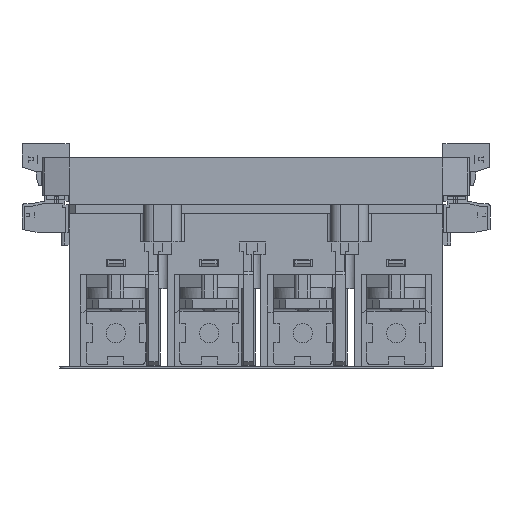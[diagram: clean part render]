
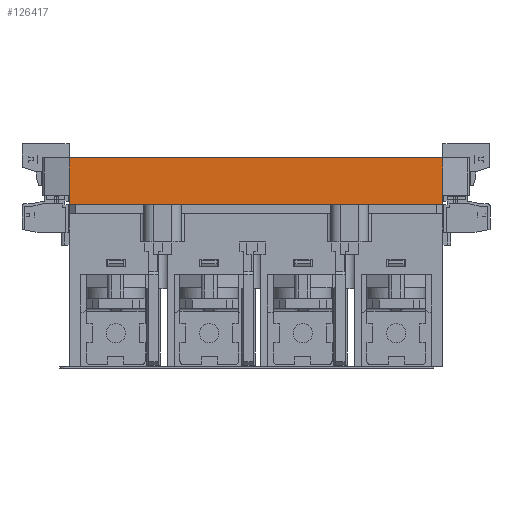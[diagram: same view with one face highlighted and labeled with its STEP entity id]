
A CAD part, front view. The second image highlights one B-rep face of the part: STEP entity #126417.
In plain terms, the highlighted planar face has unit normal (0, -1, 0).
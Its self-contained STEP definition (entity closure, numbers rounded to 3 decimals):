
#14937 = ORIENTED_EDGE ( 'NONE', *, *, #90395, .F. ) ;
#18732 = PLANE ( 'NONE',  #80993 ) ;
#26065 = CARTESIAN_POINT ( 'NONE',  ( -65.364, -76.612, -14.857 ) ) ;
#30867 = EDGE_LOOP ( 'NONE', ( #14937, #95910, #60610, #68229 ) ) ;
#36637 = CARTESIAN_POINT ( 'NONE',  ( -68.97, -76.612, -29.857 ) ) ;
#37434 = CARTESIAN_POINT ( 'NONE',  ( 54.636, -76.612, -29.857 ) ) ;
#38332 = LINE ( 'NONE', #80378, #59469 ) ;
#40467 = FACE_OUTER_BOUND ( 'NONE', #30867, .T. ) ;
#46041 = DIRECTION ( 'NONE',  ( 1., 0., 0. ) ) ;
#48784 = LINE ( 'NONE', #65160, #64825 ) ;
#53821 = DIRECTION ( 'NONE',  ( 0., 0., -1. ) ) ;
#55210 = LINE ( 'NONE', #36637, #69537 ) ;
#59469 = VECTOR ( 'NONE', #98935, 1000. ) ;
#60610 = ORIENTED_EDGE ( 'NONE', *, *, #98317, .T. ) ;
#62954 = VERTEX_POINT ( 'NONE', #26065 ) ;
#64825 = VECTOR ( 'NONE', #76766, 1000. ) ;
#65160 = CARTESIAN_POINT ( 'NONE',  ( -65.364, -76.612, -11.857 ) ) ;
#65803 = VERTEX_POINT ( 'NONE', #37434 ) ;
#65963 = LINE ( 'NONE', #135801, #128918 ) ;
#68206 = VERTEX_POINT ( 'NONE', #134234 ) ;
#68229 = ORIENTED_EDGE ( 'NONE', *, *, #125770, .T. ) ;
#69537 = VECTOR ( 'NONE', #46041, 1000. ) ;
#76766 = DIRECTION ( 'NONE',  ( 0., 0., -1. ) ) ;
#80378 = CARTESIAN_POINT ( 'NONE',  ( 54.636, -76.612, -11.857 ) ) ;
#80993 = AXIS2_PLACEMENT_3D ( 'NONE', #105081, #130700, #53821 ) ;
#90395 = EDGE_CURVE ( 'NONE', #124934, #65803, #38332, .T. ) ;
#95910 = ORIENTED_EDGE ( 'NONE', *, *, #118906, .T. ) ;
#98317 = EDGE_CURVE ( 'NONE', #62954, #68206, #48784, .T. ) ;
#98540 = DIRECTION ( 'NONE',  ( -1., 0., 0. ) ) ;
#98935 = DIRECTION ( 'NONE',  ( 0., 0., -1. ) ) ;
#105081 = CARTESIAN_POINT ( 'NONE',  ( 24.636, -76.612, -11.857 ) ) ;
#105687 = CARTESIAN_POINT ( 'NONE',  ( 54.636, -76.612, -14.857 ) ) ;
#118906 = EDGE_CURVE ( 'NONE', #124934, #62954, #65963, .T. ) ;
#124934 = VERTEX_POINT ( 'NONE', #105687 ) ;
#125770 = EDGE_CURVE ( 'NONE', #68206, #65803, #55210, .T. ) ;
#126417 = ADVANCED_FACE ( 'NONE', ( #40467 ), #18732, .F. ) ;
#128918 = VECTOR ( 'NONE', #98540, 1000. ) ;
#130700 = DIRECTION ( 'NONE',  ( 0., 1., 0. ) ) ;
#134234 = CARTESIAN_POINT ( 'NONE',  ( -65.364, -76.612, -29.857 ) ) ;
#135801 = CARTESIAN_POINT ( 'NONE',  ( 62.251, -76.612, -14.857 ) ) ;
